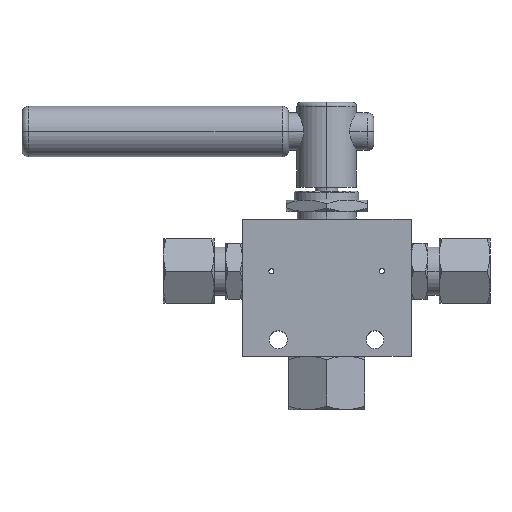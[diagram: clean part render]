
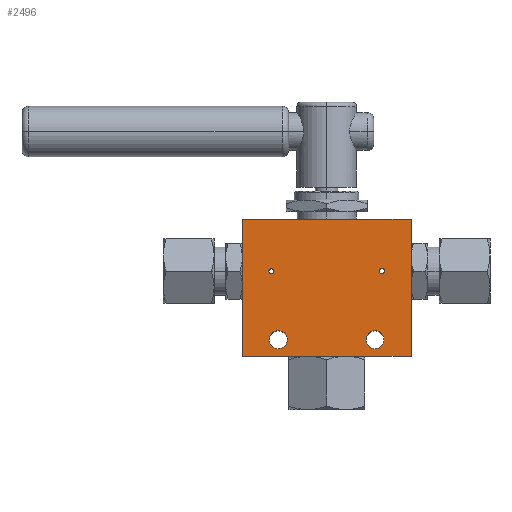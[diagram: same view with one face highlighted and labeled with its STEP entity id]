
A CAD part, top view. The second image highlights one B-rep face of the part: STEP entity #2496.
In plain terms, the highlighted planar face has unit normal (0, 0, 1).
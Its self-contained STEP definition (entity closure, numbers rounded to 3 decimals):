
#4 = AXIS2_PLACEMENT_3D ( 'NONE', #6174, #3705, #1860 ) ;
#54 = EDGE_CURVE ( 'NONE', #315, #6191, #5372, .T. ) ;
#71 = CARTESIAN_POINT ( 'NONE',  ( -21.75, 6.5, 19. ) ) ;
#76 = AXIS2_PLACEMENT_3D ( 'NONE', #4870, #4609, #2883 ) ;
#84 = FACE_BOUND ( 'NONE', #1137, .T. ) ;
#134 = EDGE_CURVE ( 'NONE', #2080, #216, #3609, .T. ) ;
#158 = CARTESIAN_POINT ( 'NONE',  ( -22.75, 6.5, 19. ) ) ;
#196 = EDGE_CURVE ( 'NONE', #6331, #1661, #5073, .T. ) ;
#216 = VERTEX_POINT ( 'NONE', #2585 ) ;
#226 = VECTOR ( 'NONE', #2182, 1000. ) ;
#285 = AXIS2_PLACEMENT_3D ( 'NONE', #1682, #2659, #4227 ) ;
#315 = VERTEX_POINT ( 'NONE', #4548 ) ;
#435 = ORIENTED_EDGE ( 'NONE', *, *, #134, .F. ) ;
#534 = VECTOR ( 'NONE', #5081, 1000. ) ;
#573 = CARTESIAN_POINT ( 'NONE',  ( -33.25, -27., 19. ) ) ;
#627 = CARTESIAN_POINT ( 'NONE',  ( -22.55, -20.5, 19. ) ) ;
#672 = EDGE_LOOP ( 'NONE', ( #1828, #2898, #3907, #4471 ) ) ;
#697 = VERTEX_POINT ( 'NONE', #3909 ) ;
#700 = LINE ( 'NONE', #2676, #226 ) ;
#733 = CARTESIAN_POINT ( 'NONE',  ( 33.25, 27., 19. ) ) ;
#785 = EDGE_CURVE ( 'NONE', #6191, #315, #3731, .T. ) ;
#979 = DIRECTION ( 'NONE',  ( 0., 0., 1. ) ) ;
#1137 = EDGE_LOOP ( 'NONE', ( #5485, #1972 ) ) ;
#1143 = DIRECTION ( 'NONE',  ( 1., 0., 0. ) ) ;
#1206 = VERTEX_POINT ( 'NONE', #627 ) ;
#1446 = FACE_BOUND ( 'NONE', #3791, .T. ) ;
#1594 = ORIENTED_EDGE ( 'NONE', *, *, #4132, .F. ) ;
#1598 = DIRECTION ( 'NONE',  ( 0., 0., 1. ) ) ;
#1622 = DIRECTION ( 'NONE',  ( 0., -1., 0. ) ) ;
#1661 = VERTEX_POINT ( 'NONE', #3148 ) ;
#1682 = CARTESIAN_POINT ( 'NONE',  ( 19.05, -20.5, 19. ) ) ;
#1758 = DIRECTION ( 'NONE',  ( 0., 0., 1. ) ) ;
#1784 = CARTESIAN_POINT ( 'NONE',  ( 15.55, -20.5, 19. ) ) ;
#1828 = ORIENTED_EDGE ( 'NONE', *, *, #4777, .T. ) ;
#1852 = ORIENTED_EDGE ( 'NONE', *, *, #785, .F. ) ;
#1860 = DIRECTION ( 'NONE',  ( 1., 0., 0. ) ) ;
#1931 = CIRCLE ( 'NONE', #3499, 3.5 ) ;
#1964 = ORIENTED_EDGE ( 'NONE', *, *, #4475, .F. ) ;
#1972 = ORIENTED_EDGE ( 'NONE', *, *, #5150, .F. ) ;
#2029 = CARTESIAN_POINT ( 'NONE',  ( 0., 0., 19. ) ) ;
#2080 = VERTEX_POINT ( 'NONE', #1784 ) ;
#2182 = DIRECTION ( 'NONE',  ( 0., 1., 0. ) ) ;
#2209 = ORIENTED_EDGE ( 'NONE', *, *, #54, .F. ) ;
#2404 = CARTESIAN_POINT ( 'NONE',  ( -19.05, -20.5, 19. ) ) ;
#2496 = ADVANCED_FACE ( 'NONE', ( #5520, #1446, #84, #3465, #5455 ), #2977, .F. ) ;
#2538 = EDGE_LOOP ( 'NONE', ( #435, #1964 ) ) ;
#2565 = AXIS2_PLACEMENT_3D ( 'NONE', #4852, #979, #2968 ) ;
#2585 = CARTESIAN_POINT ( 'NONE',  ( 22.55, -20.5, 19. ) ) ;
#2659 = DIRECTION ( 'NONE',  ( 0., 0., 1. ) ) ;
#2662 = VERTEX_POINT ( 'NONE', #733 ) ;
#2676 = CARTESIAN_POINT ( 'NONE',  ( 33.25, -27., 19. ) ) ;
#2841 = CARTESIAN_POINT ( 'NONE',  ( 33.25, -27., 19. ) ) ;
#2883 = DIRECTION ( 'NONE',  ( 1., 0., 0. ) ) ;
#2898 = ORIENTED_EDGE ( 'NONE', *, *, #4344, .T. ) ;
#2968 = DIRECTION ( 'NONE',  ( 1., 0., 0. ) ) ;
#2977 = PLANE ( 'NONE',  #3207 ) ;
#3133 = AXIS2_PLACEMENT_3D ( 'NONE', #6024, #3552, #3971 ) ;
#3148 = CARTESIAN_POINT ( 'NONE',  ( 22.75, 6.5, 19. ) ) ;
#3172 = DIRECTION ( 'NONE',  ( 1., 0., 0. ) ) ;
#3207 = AXIS2_PLACEMENT_3D ( 'NONE', #2029, #4019, #4442 ) ;
#3231 = CARTESIAN_POINT ( 'NONE',  ( -19.05, -20.5, 19. ) ) ;
#3465 = FACE_BOUND ( 'NONE', #4279, .T. ) ;
#3470 = VERTEX_POINT ( 'NONE', #5239 ) ;
#3499 = AXIS2_PLACEMENT_3D ( 'NONE', #2404, #3561, #5415 ) ;
#3552 = DIRECTION ( 'NONE',  ( 0., 0., 1. ) ) ;
#3561 = DIRECTION ( 'NONE',  ( 0., 0., 1. ) ) ;
#3609 = CIRCLE ( 'NONE', #285, 3.5 ) ;
#3615 = LINE ( 'NONE', #5694, #4072 ) ;
#3637 = CARTESIAN_POINT ( 'NONE',  ( -33.25, 27., 19. ) ) ;
#3656 = CARTESIAN_POINT ( 'NONE',  ( -33.25, -27., 19. ) ) ;
#3705 = DIRECTION ( 'NONE',  ( 0., 0., 1. ) ) ;
#3731 = CIRCLE ( 'NONE', #4250, 1. ) ;
#3751 = DIRECTION ( 'NONE',  ( 1., 0., 0. ) ) ;
#3791 = EDGE_LOOP ( 'NONE', ( #1852, #2209 ) ) ;
#3907 = ORIENTED_EDGE ( 'NONE', *, *, #5302, .T. ) ;
#3909 = CARTESIAN_POINT ( 'NONE',  ( -33.25, 27., 19. ) ) ;
#3911 = EDGE_CURVE ( 'NONE', #1206, #3470, #1931, .T. ) ;
#3939 = VERTEX_POINT ( 'NONE', #573 ) ;
#3971 = DIRECTION ( 'NONE',  ( 1., 0., 0. ) ) ;
#4019 = DIRECTION ( 'NONE',  ( 0., 0., -1. ) ) ;
#4072 = VECTOR ( 'NONE', #1622, 1000. ) ;
#4085 = ORIENTED_EDGE ( 'NONE', *, *, #3911, .F. ) ;
#4132 = EDGE_CURVE ( 'NONE', #3470, #1206, #5110, .T. ) ;
#4227 = DIRECTION ( 'NONE',  ( 1., 0., 0. ) ) ;
#4250 = AXIS2_PLACEMENT_3D ( 'NONE', #71, #1598, #1143 ) ;
#4279 = EDGE_LOOP ( 'NONE', ( #4085, #1594 ) ) ;
#4344 = EDGE_CURVE ( 'NONE', #2662, #697, #5136, .T. ) ;
#4442 = DIRECTION ( 'NONE',  ( -1., 0., 0. ) ) ;
#4471 = ORIENTED_EDGE ( 'NONE', *, *, #5888, .T. ) ;
#4475 = EDGE_CURVE ( 'NONE', #216, #2080, #4478, .T. ) ;
#4478 = CIRCLE ( 'NONE', #4, 3.5 ) ;
#4548 = CARTESIAN_POINT ( 'NONE',  ( -20.75, 6.5, 19. ) ) ;
#4609 = DIRECTION ( 'NONE',  ( 0., 0., 1. ) ) ;
#4733 = VECTOR ( 'NONE', #3172, 1000. ) ;
#4777 = EDGE_CURVE ( 'NONE', #6347, #2662, #700, .T. ) ;
#4852 = CARTESIAN_POINT ( 'NONE',  ( -21.75, 6.5, 19. ) ) ;
#4870 = CARTESIAN_POINT ( 'NONE',  ( 21.75, 6.5, 19. ) ) ;
#5073 = CIRCLE ( 'NONE', #76, 1. ) ;
#5081 = DIRECTION ( 'NONE',  ( -1., 0., 0. ) ) ;
#5110 = CIRCLE ( 'NONE', #5621, 3.5 ) ;
#5136 = LINE ( 'NONE', #3637, #534 ) ;
#5150 = EDGE_CURVE ( 'NONE', #1661, #6331, #6238, .T. ) ;
#5239 = CARTESIAN_POINT ( 'NONE',  ( -15.55, -20.5, 19. ) ) ;
#5302 = EDGE_CURVE ( 'NONE', #697, #3939, #3615, .T. ) ;
#5372 = CIRCLE ( 'NONE', #2565, 1. ) ;
#5415 = DIRECTION ( 'NONE',  ( 1., 0., 0. ) ) ;
#5455 = FACE_BOUND ( 'NONE', #2538, .T. ) ;
#5485 = ORIENTED_EDGE ( 'NONE', *, *, #196, .F. ) ;
#5520 = FACE_OUTER_BOUND ( 'NONE', #672, .T. ) ;
#5621 = AXIS2_PLACEMENT_3D ( 'NONE', #3231, #1758, #3751 ) ;
#5637 = LINE ( 'NONE', #3656, #4733 ) ;
#5694 = CARTESIAN_POINT ( 'NONE',  ( -33.25, -27., 19. ) ) ;
#5888 = EDGE_CURVE ( 'NONE', #3939, #6347, #5637, .T. ) ;
#6024 = CARTESIAN_POINT ( 'NONE',  ( 21.75, 6.5, 19. ) ) ;
#6174 = CARTESIAN_POINT ( 'NONE',  ( 19.05, -20.5, 19. ) ) ;
#6191 = VERTEX_POINT ( 'NONE', #158 ) ;
#6238 = CIRCLE ( 'NONE', #3133, 1. ) ;
#6258 = CARTESIAN_POINT ( 'NONE',  ( 20.75, 6.5, 19. ) ) ;
#6331 = VERTEX_POINT ( 'NONE', #6258 ) ;
#6347 = VERTEX_POINT ( 'NONE', #2841 ) ;
